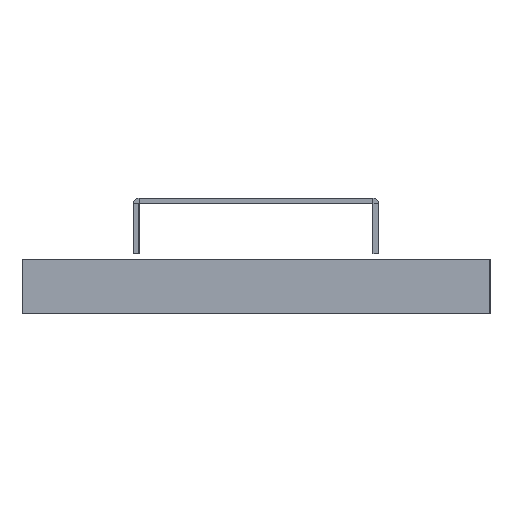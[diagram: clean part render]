
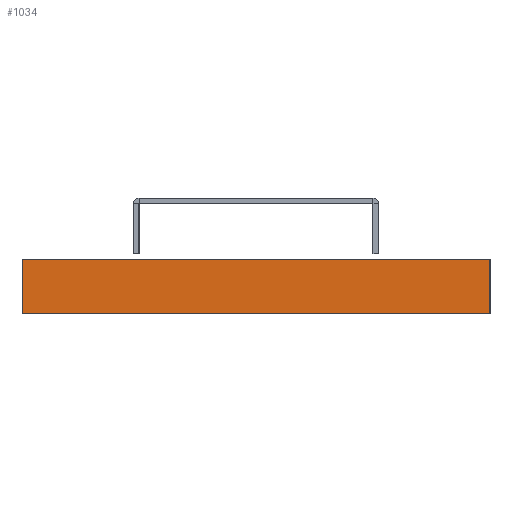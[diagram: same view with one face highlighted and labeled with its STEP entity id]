
A CAD part, left-side view. The second image highlights one B-rep face of the part: STEP entity #1034.
In plain terms, the highlighted planar face has unit normal (-1, 0, 0).
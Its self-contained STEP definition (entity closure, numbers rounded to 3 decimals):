
#130=PLANE('',#1195);
#177=FACE_OUTER_BOUND('',#228,.T.);
#228=EDGE_LOOP('',(#846,#847,#848,#849));
#321=LINE('',#1763,#411);
#329=LINE('',#1778,#419);
#330=LINE('',#1780,#420);
#331=LINE('',#1781,#421);
#411=VECTOR('',#1424,10.);
#419=VECTOR('',#1436,10.);
#420=VECTOR('',#1439,10.);
#421=VECTOR('',#1440,10.);
#558=VERTEX_POINT('',#1759);
#560=VERTEX_POINT('',#1762);
#564=VERTEX_POINT('',#1774);
#565=VERTEX_POINT('',#1776);
#669=EDGE_CURVE('',#558,#560,#321,.T.);
#677=EDGE_CURVE('',#564,#565,#329,.T.);
#678=EDGE_CURVE('',#564,#558,#330,.T.);
#679=EDGE_CURVE('',#560,#565,#331,.T.);
#846=ORIENTED_EDGE('',*,*,#678,.F.);
#847=ORIENTED_EDGE('',*,*,#677,.T.);
#848=ORIENTED_EDGE('',*,*,#679,.F.);
#849=ORIENTED_EDGE('',*,*,#669,.F.);
#1034=ADVANCED_FACE('',(#177),#130,.T.);
#1195=AXIS2_PLACEMENT_3D('',#1779,#1437,#1438);
#1424=DIRECTION('',(0.,0.,-1.));
#1436=DIRECTION('',(0.,0.,-1.));
#1437=DIRECTION('center_axis',(-1.,0.,0.));
#1438=DIRECTION('ref_axis',(0.,1.,0.));
#1439=DIRECTION('',(0.,-1.,0.));
#1440=DIRECTION('',(0.,1.,0.));
#1759=CARTESIAN_POINT('',(-144.,-21.,0.));
#1762=CARTESIAN_POINT('',(-144.,-21.,-4.9));
#1763=CARTESIAN_POINT('',(-144.,-21.,0.));
#1774=CARTESIAN_POINT('',(-144.,21.,0.));
#1776=CARTESIAN_POINT('',(-144.,21.,-4.9));
#1778=CARTESIAN_POINT('',(-144.,21.,0.));
#1779=CARTESIAN_POINT('Origin',(-144.,-21.,0.));
#1780=CARTESIAN_POINT('',(-144.,21.,0.));
#1781=CARTESIAN_POINT('',(-144.,21.,-4.9));
